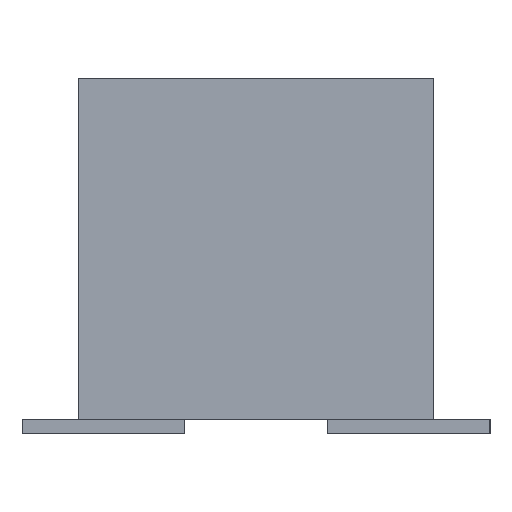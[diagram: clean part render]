
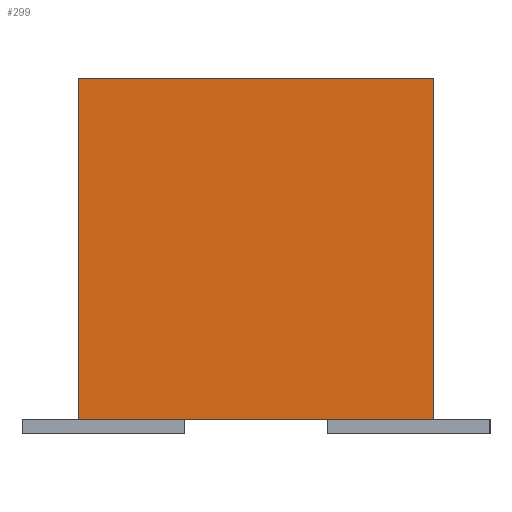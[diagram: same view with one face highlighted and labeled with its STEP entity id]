
A CAD part, left-side view. The second image highlights one B-rep face of the part: STEP entity #299.
In plain terms, the highlighted planar face has unit normal (-1, 0, 0).
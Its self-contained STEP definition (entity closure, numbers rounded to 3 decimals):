
#36 = EDGE_CURVE('',#37,#39,#41,.T.);
#37 = VERTEX_POINT('',#38);
#38 = CARTESIAN_POINT('',(-1.6,1.25,0.));
#39 = VERTEX_POINT('',#40);
#40 = CARTESIAN_POINT('',(-1.6,1.25,2.4));
#41 = SURFACE_CURVE('',#42,(#46,#58),.PCURVE_S1.);
#42 = LINE('',#43,#44);
#43 = CARTESIAN_POINT('',(-1.6,1.25,0.));
#44 = VECTOR('',#45,1.);
#45 = DIRECTION('',(0.,0.,1.));
#46 = PCURVE('',#47,#52);
#47 = PLANE('',#48);
#48 = AXIS2_PLACEMENT_3D('',#49,#50,#51);
#49 = CARTESIAN_POINT('',(-1.6,1.25,0.));
#50 = DIRECTION('',(0.,1.,0.));
#51 = DIRECTION('',(1.,0.,0.));
#52 = DEFINITIONAL_REPRESENTATION('',(#53),#57);
#53 = LINE('',#54,#55);
#54 = CARTESIAN_POINT('',(0.,0.));
#55 = VECTOR('',#56,1.);
#56 = DIRECTION('',(0.,-1.));
#57 = ( GEOMETRIC_REPRESENTATION_CONTEXT(2) 
PARAMETRIC_REPRESENTATION_CONTEXT() REPRESENTATION_CONTEXT('2D SPACE',''
  ) );
#58 = PCURVE('',#59,#64);
#59 = PLANE('',#60);
#60 = AXIS2_PLACEMENT_3D('',#61,#62,#63);
#61 = CARTESIAN_POINT('',(-1.6,-1.25,0.));
#62 = DIRECTION('',(-1.,0.,0.));
#63 = DIRECTION('',(0.,1.,0.));
#64 = DEFINITIONAL_REPRESENTATION('',(#65),#69);
#65 = LINE('',#66,#67);
#66 = CARTESIAN_POINT('',(2.5,0.));
#67 = VECTOR('',#68,1.);
#68 = DIRECTION('',(0.,-1.));
#69 = ( GEOMETRIC_REPRESENTATION_CONTEXT(2) 
PARAMETRIC_REPRESENTATION_CONTEXT() REPRESENTATION_CONTEXT('2D SPACE',''
  ) );
#87 = PLANE('',#88);
#88 = AXIS2_PLACEMENT_3D('',#89,#90,#91);
#89 = CARTESIAN_POINT('',(0.,0.,2.4));
#90 = DIRECTION('',(-0.,-0.,-1.));
#91 = DIRECTION('',(-1.,0.,0.));
#141 = PLANE('',#142);
#142 = AXIS2_PLACEMENT_3D('',#143,#144,#145);
#143 = CARTESIAN_POINT('',(0.,0.,0.));
#144 = DIRECTION('',(-0.,-0.,-1.));
#145 = DIRECTION('',(-1.,0.,0.));
#196 = PLANE('',#197);
#197 = AXIS2_PLACEMENT_3D('',#198,#199,#200);
#198 = CARTESIAN_POINT('',(1.6,-1.25,0.));
#199 = DIRECTION('',(0.,-1.,0.));
#200 = DIRECTION('',(-1.,0.,0.));
#234 = VERTEX_POINT('',#235);
#235 = CARTESIAN_POINT('',(-1.6,-1.25,2.4));
#256 = EDGE_CURVE('',#257,#234,#259,.T.);
#257 = VERTEX_POINT('',#258);
#258 = CARTESIAN_POINT('',(-1.6,-1.25,0.));
#259 = SURFACE_CURVE('',#260,(#264,#271),.PCURVE_S1.);
#260 = LINE('',#261,#262);
#261 = CARTESIAN_POINT('',(-1.6,-1.25,0.));
#262 = VECTOR('',#263,1.);
#263 = DIRECTION('',(0.,0.,1.));
#264 = PCURVE('',#196,#265);
#265 = DEFINITIONAL_REPRESENTATION('',(#266),#270);
#266 = LINE('',#267,#268);
#267 = CARTESIAN_POINT('',(3.2,0.));
#268 = VECTOR('',#269,1.);
#269 = DIRECTION('',(0.,-1.));
#270 = ( GEOMETRIC_REPRESENTATION_CONTEXT(2) 
PARAMETRIC_REPRESENTATION_CONTEXT() REPRESENTATION_CONTEXT('2D SPACE',''
  ) );
#271 = PCURVE('',#59,#272);
#272 = DEFINITIONAL_REPRESENTATION('',(#273),#277);
#273 = LINE('',#274,#275);
#274 = CARTESIAN_POINT('',(0.,0.));
#275 = VECTOR('',#276,1.);
#276 = DIRECTION('',(0.,-1.));
#277 = ( GEOMETRIC_REPRESENTATION_CONTEXT(2) 
PARAMETRIC_REPRESENTATION_CONTEXT() REPRESENTATION_CONTEXT('2D SPACE',''
  ) );
#299 = ADVANCED_FACE('',(#300),#59,.T.);
#300 = FACE_BOUND('',#301,.T.);
#301 = EDGE_LOOP('',(#302,#303,#324,#325));
#302 = ORIENTED_EDGE('',*,*,#256,.T.);
#303 = ORIENTED_EDGE('',*,*,#304,.T.);
#304 = EDGE_CURVE('',#234,#39,#305,.T.);
#305 = SURFACE_CURVE('',#306,(#310,#317),.PCURVE_S1.);
#306 = LINE('',#307,#308);
#307 = CARTESIAN_POINT('',(-1.6,-1.25,2.4));
#308 = VECTOR('',#309,1.);
#309 = DIRECTION('',(0.,1.,0.));
#310 = PCURVE('',#59,#311);
#311 = DEFINITIONAL_REPRESENTATION('',(#312),#316);
#312 = LINE('',#313,#314);
#313 = CARTESIAN_POINT('',(0.,-2.4));
#314 = VECTOR('',#315,1.);
#315 = DIRECTION('',(1.,0.));
#316 = ( GEOMETRIC_REPRESENTATION_CONTEXT(2) 
PARAMETRIC_REPRESENTATION_CONTEXT() REPRESENTATION_CONTEXT('2D SPACE',''
  ) );
#317 = PCURVE('',#87,#318);
#318 = DEFINITIONAL_REPRESENTATION('',(#319),#323);
#319 = LINE('',#320,#321);
#320 = CARTESIAN_POINT('',(1.6,-1.25));
#321 = VECTOR('',#322,1.);
#322 = DIRECTION('',(0.,1.));
#323 = ( GEOMETRIC_REPRESENTATION_CONTEXT(2) 
PARAMETRIC_REPRESENTATION_CONTEXT() REPRESENTATION_CONTEXT('2D SPACE',''
  ) );
#324 = ORIENTED_EDGE('',*,*,#36,.F.);
#325 = ORIENTED_EDGE('',*,*,#326,.F.);
#326 = EDGE_CURVE('',#257,#37,#327,.T.);
#327 = SURFACE_CURVE('',#328,(#332,#339),.PCURVE_S1.);
#328 = LINE('',#329,#330);
#329 = CARTESIAN_POINT('',(-1.6,-1.25,0.));
#330 = VECTOR('',#331,1.);
#331 = DIRECTION('',(0.,1.,0.));
#332 = PCURVE('',#59,#333);
#333 = DEFINITIONAL_REPRESENTATION('',(#334),#338);
#334 = LINE('',#335,#336);
#335 = CARTESIAN_POINT('',(0.,0.));
#336 = VECTOR('',#337,1.);
#337 = DIRECTION('',(1.,0.));
#338 = ( GEOMETRIC_REPRESENTATION_CONTEXT(2) 
PARAMETRIC_REPRESENTATION_CONTEXT() REPRESENTATION_CONTEXT('2D SPACE',''
  ) );
#339 = PCURVE('',#141,#340);
#340 = DEFINITIONAL_REPRESENTATION('',(#341),#345);
#341 = LINE('',#342,#343);
#342 = CARTESIAN_POINT('',(1.6,-1.25));
#343 = VECTOR('',#344,1.);
#344 = DIRECTION('',(0.,1.));
#345 = ( GEOMETRIC_REPRESENTATION_CONTEXT(2) 
PARAMETRIC_REPRESENTATION_CONTEXT() REPRESENTATION_CONTEXT('2D SPACE',''
  ) );
